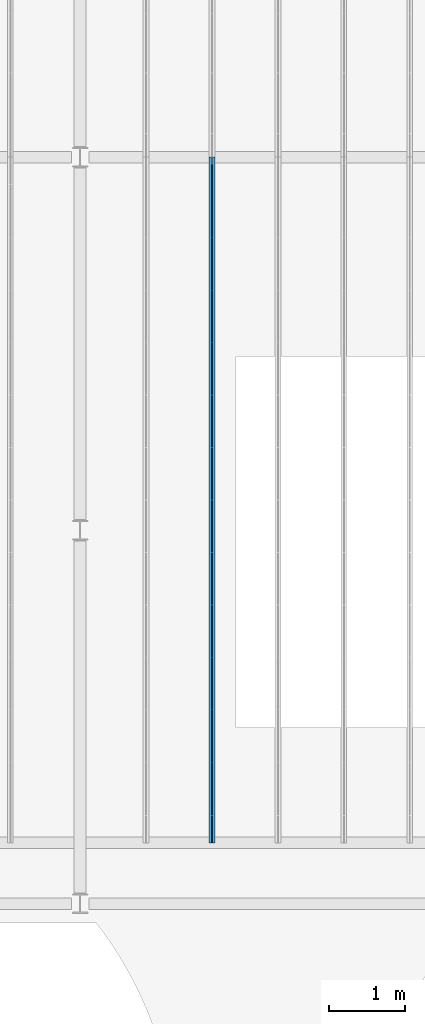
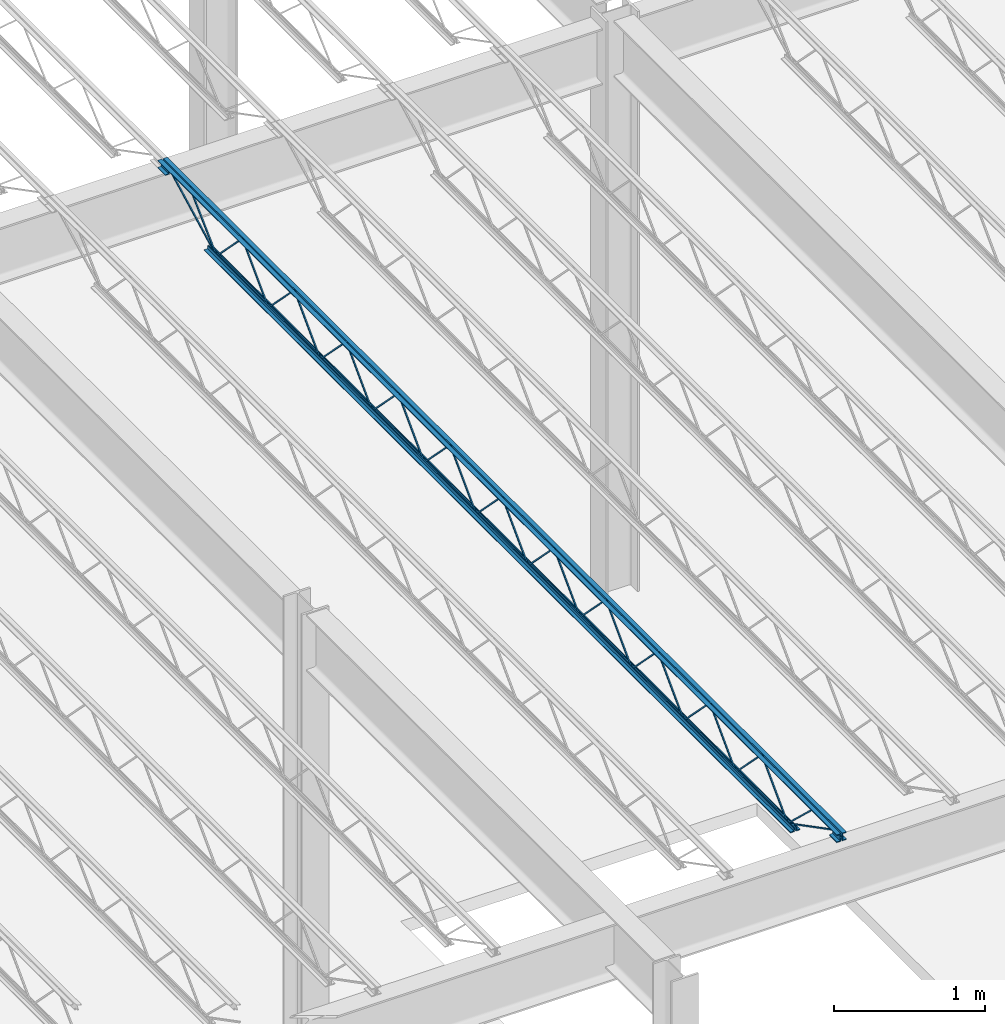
# One storey, part 53 of 119: 1 beam.
"""IFC2X3 building model written with IfcOpenShell, lengths in metres."""

import ifcopenshell
import ifcopenshell.guid

model = None  # the IFC model being written
_history = None  # IfcOwnerHistory: only IFC2X3 demands one
_inside = {}  # id of a spatial element -> (the spatial element, [elements in it])
_under = {}  # id of a project, library or spatial element -> (it, [spatial elements below it])
_declared = {}  # id of a project -> (the project, [libraries it declares])
_typed = {}  # id of a type object -> (the type object, [elements of that type])
_made_of = {}  # id of a material, layer set ... -> (it, [elements and type objects made of it])


def new_model(schema):
    """Start an empty IFC model of exactly this schema.

    Asked for "IFC4X3", IfcOpenShell would pick the latest addendum, in which some entities
    have other attributes; the version numbers below select the first issue.
    IFC2X3 requires an IfcOwnerHistory on every rooted entity: one is made here for all.
    """
    global model, _history
    if schema == "IFC4X3":
        model = ifcopenshell.file(schema_version=(4, 3, 0, 0))
    else:
        model = ifcopenshell.file(schema=schema)
    _inside.clear()
    _under.clear()
    _declared.clear()
    _typed.clear()
    _made_of.clear()
    _history = None
    if model.schema == "IFC2X3":
        org = make("IfcOrganization", Name="unknown")
        user = make(
            "IfcPersonAndOrganization",
            ThePerson=make("IfcPerson", FamilyName="unknown"),
            TheOrganization=org,
        )
        app = make(
            "IfcApplication",
            ApplicationDeveloper=org,
            Version="unknown",
            ApplicationFullName="unknown",
            ApplicationIdentifier="unknown",
        )
        _history = make(
            "IfcOwnerHistory",
            OwningUser=user,
            OwningApplication=app,
            ChangeAction="ADDED",
            CreationDate=0,
        )
    return model


def make(cls, **values):
    """One entity of the class cls with the attributes given. An attribute that is None is left unset."""
    return model.create_entity(
        cls, **{name: value for name, value in values.items() if value is not None}
    )


def entity(cls, *values):
    """Any entity or typed value of the class cls, its attributes in the order of the schema. None: left unset."""
    e = model.create_entity(cls)
    for i, value in enumerate(values):
        if value is not None:
            e[i] = value
    return e


def rooted(cls, **values):
    """An entity with a GlobalId (a new one), such as an element, a storey or a relation."""
    return make(cls, GlobalId=ifcopenshell.guid.new(), OwnerHistory=_history, **values)


def si_unit(unit_type, name, prefix=None):
    """IfcSIUnit, for example si_unit("LENGTHUNIT", "METRE", prefix="MILLI")."""
    return make("IfcSIUnit", UnitType=unit_type, Prefix=prefix, Name=name)


def converted_unit(unit_type, name, factor, base, dimensions=None, offset=None):
    """IfcConversionBasedUnit, such as the inch: factor (a typed value) times the base unit."""
    return make(
        "IfcConversionBasedUnit"
        if offset is None
        else "IfcConversionBasedUnitWithOffset",
        ConversionOffset=offset,
        Dimensions=None
        if dimensions is None
        else entity("IfcDimensionalExponents", *dimensions),
        UnitType=unit_type,
        Name=name,
        ConversionFactor=make(
            "IfcMeasureWithUnit", ValueComponent=factor, UnitComponent=base
        ),
    )


def assignment(units):
    """IfcUnitAssignment: the units of a project."""
    return None if units is None else make("IfcUnitAssignment", Units=units)


def point(xyz):
    """IfcCartesianPoint."""
    return None if xyz is None else make("IfcCartesianPoint", Coordinates=xyz)


def direction(xyz):
    """IfcDirection."""
    return None if xyz is None else make("IfcDirection", DirectionRatios=xyz)


def frame(location, z_axis=None, x_axis=None):
    """IfcAxis2Placement3D, a coordinate frame: its origin and axes. An axis left out is left unset."""
    return make(
        "IfcAxis2Placement3D",
        Location=point(location),
        Axis=direction(z_axis),
        RefDirection=direction(x_axis),
    )


def origin():
    """The frame at (0, 0, 0) with its axes left unset."""
    return frame((0.0, 0.0, 0.0))


def place(relative_to, where):
    """IfcLocalPlacement: puts the frame where relative to a parent placement (None: the world)."""
    return make(
        "IfcLocalPlacement", PlacementRelTo=relative_to, RelativePlacement=where
    )


def context(
    kind, dimensions, precision=None, world=None, true_north=None, identifier=None
):
    """IfcGeometricRepresentationContext, for example the 3D "Model" context."""
    return make(
        "IfcGeometricRepresentationContext",
        ContextIdentifier=identifier,
        ContextType=kind,
        CoordinateSpaceDimension=dimensions,
        Precision=precision,
        WorldCoordinateSystem=world,
        TrueNorth=true_north,
    )


def project(units=None, contexts=None):
    """IfcProject with its units and contexts."""
    return rooted(
        "IfcProject",
        Name="project",
        RepresentationContexts=contexts,
        UnitsInContext=assignment(units),
    )


def spatial(cls, under=None, at=None, **own):
    """A site, building, storey or space (cls), placed at a placement, below another one or the project."""
    s = rooted(cls, ObjectPlacement=at, **own)
    if under is not None:
        _under.setdefault(under.id(), (under, []))[1].append(s)
    return s


def faces_of(points, faces, orient=None, outer=None):
    """IfcFace entities. A face is a list of loops; a loop is a list of indices into points, from 0.

    orient and outer hold one flag for each loop. By default every Orientation is true, the
    first loop of a face is its IfcFaceOuterBound and the others are IfcFaceBound.
    """
    made = []
    for i, loops in enumerate(faces):
        bounds = []
        for j, loop in enumerate(loops):
            is_outer = j == 0 if outer is None else outer[i][j]
            bounds.append(
                make(
                    "IfcFaceOuterBound" if is_outer else "IfcFaceBound",
                    Bound=make("IfcPolyLoop", Polygon=[points[k] for k in loop]),
                    Orientation=True if orient is None else orient[i][j],
                )
            )
        made.append(make("IfcFace", Bounds=bounds))
    return made


def face_set(faces, orient=None, outer=None):
    """The faces of one IfcConnectedFaceSet. surface_model builds it on its shared points."""
    return ("IfcConnectedFaceSet", faces, orient, outer)


def surface_model(cls, points, shells):
    """IfcFaceBasedSurfaceModel or IfcShellBasedSurfaceModel (cls): surfaces that need not close."""
    shared = [point(p) for p in points]
    made = [make(c, CfsFaces=faces_of(shared, fs, o, b)) for c, fs, o, b in shells]
    if cls == "IfcFaceBasedSurfaceModel":
        return make(cls, FbsmFaces=made)
    return make(cls, SbsmBoundary=made)


def shape(context_of_items, identifier, shape_type, items):
    """IfcShapeRepresentation: the items that make up one representation, for example the "Body"."""
    return make(
        "IfcShapeRepresentation",
        ContextOfItems=context_of_items,
        RepresentationIdentifier=identifier,
        RepresentationType=shape_type,
        Items=items,
    )


def made_of(thing, what):
    """Note that an element or type object is made of a material, layer set ...; save() writes the relation."""
    if what is not None:
        _made_of.setdefault(what.id(), (what, []))[1].append(thing)
    return thing


def element(
    cls,
    number,
    at=None,
    inside=None,
    cuts=None,
    type_object=None,
    material=None,
    context=None,
    identifier="Body",
    shape_type=None,
    held_by="IfcProductDefinitionShape",
    body=None,
    shapes=None,
    **own,
):
    """One element of the class cls, such as IfcWall. Its Tag is "e" and its number.

    at: its placement. inside: the storey or other place that contains it. cuts: it is an
    opening in that element (IfcRelVoidsElement). A single representation is given by context,
    identifier, shape_type and body (its items); several are given by shapes. held_by: the class
    of the entity that holds the representations. save() writes the other relations.
    """
    e = rooted(cls, Tag="e%d" % number, ObjectPlacement=at, **own)
    if body is not None:
        shapes = [shape(context, identifier, shape_type, body)]
    if shapes is not None:
        e.Representation = make(held_by, Representations=shapes)
    if inside is not None:
        _inside.setdefault(inside.id(), (inside, []))[1].append(e)
    if cuts is not None:
        rooted(
            "IfcRelVoidsElement", RelatingBuildingElement=cuts, RelatedOpeningElement=e
        )
    if type_object is not None:
        _typed.setdefault(type_object.id(), (type_object, []))[1].append(e)
    return made_of(e, material)


def aggregate(whole, parts):
    """IfcRelAggregates: a whole, such as a stair, and the parts it consists of."""
    return rooted("IfcRelAggregates", RelatingObject=whole, RelatedObjects=parts)


def save(model, path):
    """Write the relations noted so far, then the file.

    IfcRelAggregates (storeys below a building ...), IfcRelContainedInSpatialStructure (elements
    in a storey), IfcRelDefinesByType, IfcRelAssociatesMaterial and IfcRelDeclares: one each for
    every whole, place, type object, material and project.
    """
    for whole, parts in _under.values():
        aggregate(whole, parts)
    for where, things in _inside.values():
        rooted(
            "IfcRelContainedInSpatialStructure",
            RelatedElements=things,
            RelatingStructure=where,
        )
    for kind, things in _typed.values():
        rooted("IfcRelDefinesByType", RelatedObjects=things, RelatingType=kind)
    for what, things in _made_of.values():
        rooted("IfcRelAssociatesMaterial", RelatedObjects=things, RelatingMaterial=what)
    for by, libraries in _declared.values():
        rooted("IfcRelDeclares", RelatingContext=by, RelatedDefinitions=libraries)
    model.write(path)


model = new_model("IFC2X3")

# Units and contexts
model_context = context("Model", 3, precision=1e-09, world=origin())
plan_context = context("Plan", 3, precision=1e-09, world=origin())
ifc_project = project(units=[si_unit("LENGTHUNIT", "METRE"), si_unit("AREAUNIT", "SQUARE_METRE"), si_unit("VOLUMEUNIT", "CUBIC_METRE"), converted_unit("PLANEANGLEUNIT", "DEGREE", entity("IfcRatioMeasure", 0.01745329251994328), si_unit("PLANEANGLEUNIT", "RADIAN"), dimensions=[0, 0, 0, 0, 0, 0, 0]), si_unit("TIMEUNIT", "SECOND")], contexts=[model_context, plan_context])

# Site, building, storey
site_placement = place(None, origin())
site = spatial("IfcSite", under=ifc_project, at=site_placement, Name="Default", CompositionType="ELEMENT")
building_placement = place(site_placement, origin())
building = spatial("IfcBuilding", under=site, at=building_placement, CompositionType="ELEMENT")
storey_placement = place(building_placement, frame((0.0, 0.0, 4.570000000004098)))
storey = spatial("IfcBuildingStorey", under=building, at=storey_placement, Name="Second Floor", CompositionType="ELEMENT", Elevation=4.570000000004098)

# Beam
beam_placement = place(storey_placement, frame((-18.37007499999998, 35.80499999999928, 4.323999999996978)))
element("IfcBeam", 1, at=beam_placement, inside=storey, Name="M_K-Series Bar Joist-Rod Web:14K1:14K1", ObjectType="M_K-Series Bar Joist-Rod Web:14K1", context=model_context, shape_type="SurfaceModel", body=[
    surface_model("IfcFaceBasedSurfaceModel", [(0.04150000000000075, 6.890090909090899, 0.01110000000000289), (0.03200000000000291, 6.890090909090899, 0.01110000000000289), (0.03200000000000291, 6.890090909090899, 0.001600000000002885), (0.04150000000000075, 6.890090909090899, 0.001600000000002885), (0.03200000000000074, 6.891272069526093, 0.01110000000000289), (0.04150000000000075, 6.891272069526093, 0.01110000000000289), (0.03200000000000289, 6.8952597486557, 0.001600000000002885), (0.03200000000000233, 7.232137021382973, 0.3449000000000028), (0.03200000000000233, 7.234499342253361, 0.3449000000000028), (0.03200000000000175, 7.57137661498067, 0.001600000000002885), (0.03200000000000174, 7.576545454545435, 0.001600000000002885), (0.03200000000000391, 7.576545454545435, 0.01110000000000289), (0.03200000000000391, 7.575364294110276, 0.01110000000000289), (0.03200000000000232, 7.238487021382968, 0.3544000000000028), (0.03200000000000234, 7.228149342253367, 0.3544000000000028), (0.0415000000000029, 6.8952597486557, 0.001600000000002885), (0.04150000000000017, 7.232137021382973, 0.3449000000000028), (0.04150000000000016, 7.234499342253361, 0.3449000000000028), (0.04149999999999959, 7.57137661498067, 0.001600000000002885), (0.04149999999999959, 7.576545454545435, 0.001600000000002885), (0.04149999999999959, 7.576545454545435, 0.01110000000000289), (0.04149999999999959, 7.575364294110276, 0.01110000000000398), (0.04150000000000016, 7.238487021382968, 0.3544000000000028), (0.04150000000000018, 7.228149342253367, 0.3544000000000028), (0.04149999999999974, 6.203636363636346, 0.01110000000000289), (0.0320000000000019, 6.203636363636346, 0.01110000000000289), (0.0320000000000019, 6.203636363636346, 0.001600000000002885), (0.04149999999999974, 6.203636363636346, 0.001600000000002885), (0.03199999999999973, 6.20481752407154, 0.01110000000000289), (0.04149999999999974, 6.20481752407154, 0.01110000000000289), (0.0320000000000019, 6.208805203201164, 0.001600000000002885), (0.03200000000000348, 6.545682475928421, 0.3449000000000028), (0.03200000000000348, 6.548044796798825, 0.3449000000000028), (0.03200000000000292, 6.884922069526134, 0.001600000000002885), (0.03200000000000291, 6.88890974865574, 0.01110000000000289), (0.03200000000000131, 6.552032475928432, 0.3544000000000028), (0.03200000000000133, 6.541694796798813, 0.3544000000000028), (0.0415000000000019, 6.208805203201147, 0.001600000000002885), (0.04149999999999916, 6.545682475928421, 0.3449000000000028), (0.04149999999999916, 6.548044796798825, 0.3449000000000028), (0.04149999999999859, 6.884922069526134, 0.001600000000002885), (0.04149999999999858, 6.890090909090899, 0.001600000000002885), (0.04150000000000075, 6.88890974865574, 0.01110000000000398), (0.04150000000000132, 6.552032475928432, 0.3544000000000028), (0.04150000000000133, 6.541694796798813, 0.3544000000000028), (0.0415000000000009, 5.51718181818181, 0.01110000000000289), (0.03200000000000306, 5.51718181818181, 0.01110000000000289), (0.03200000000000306, 5.51718181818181, 0.001600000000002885), (0.0415000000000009, 5.51718181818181, 0.001600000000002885), (0.03200000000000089, 5.518362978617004, 0.01110000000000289), (0.0415000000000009, 5.518362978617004, 0.01110000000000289), (0.03200000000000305, 5.52235065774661, 0.001600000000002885), (0.03200000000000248, 5.859227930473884, 0.3449000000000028), (0.03200000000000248, 5.861590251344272, 0.3449000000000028), (0.03200000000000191, 6.198467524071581, 0.001600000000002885), (0.03200000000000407, 6.203636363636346, 0.01110000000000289), (0.03200000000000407, 6.202455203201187, 0.01110000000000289), (0.03200000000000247, 5.865577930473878, 0.3544000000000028), (0.03200000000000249, 5.855240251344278, 0.3544000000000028), (0.04150000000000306, 5.52235065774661, 0.001600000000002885), (0.04150000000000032, 5.859227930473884, 0.3449000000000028), (0.04150000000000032, 5.861590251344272, 0.3449000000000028), (0.04149999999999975, 6.198467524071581, 0.001600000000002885), (0.04149999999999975, 6.202455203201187, 0.01110000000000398), (0.04150000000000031, 5.865577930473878, 0.3544000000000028), (0.04150000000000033, 5.855240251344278, 0.3544000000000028), (0.04149999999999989, 4.830727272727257, 0.01110000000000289), (0.03200000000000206, 4.830727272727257, 0.01110000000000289), (0.03200000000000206, 4.830727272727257, 0.001600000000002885), (0.04149999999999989, 4.830727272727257, 0.001600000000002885), (0.03199999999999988, 4.831908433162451, 0.01110000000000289), (0.04149999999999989, 4.831908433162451, 0.01110000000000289), (0.03200000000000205, 4.835896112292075, 0.001600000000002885), (0.03200000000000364, 5.172773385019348, 0.3449000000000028), (0.03200000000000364, 5.175135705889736, 0.3449000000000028), (0.03200000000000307, 5.512012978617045, 0.001600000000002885), (0.03200000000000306, 5.516000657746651, 0.01110000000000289), (0.03200000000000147, 5.179123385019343, 0.3544000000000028), (0.03200000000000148, 5.168785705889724, 0.3544000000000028), (0.04150000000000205, 4.835896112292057, 0.001600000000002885), (0.04149999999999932, 5.172773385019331, 0.3449000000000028), (0.04149999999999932, 5.175135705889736, 0.3449000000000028), (0.04149999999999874, 5.512012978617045, 0.001600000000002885), (0.04149999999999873, 5.51718181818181, 0.001600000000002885), (0.0415000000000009, 5.516000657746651, 0.01110000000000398), (0.04150000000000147, 5.179123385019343, 0.3544000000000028), (0.04150000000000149, 5.168785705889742, 0.3544000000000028), (0.04150000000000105, 4.144272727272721, 0.01110000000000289), (0.03200000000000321, 4.144272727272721, 0.01110000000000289), (0.03200000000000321, 4.144272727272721, 0.001600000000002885), (0.04150000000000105, 4.144272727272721, 0.001600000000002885), (0.03200000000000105, 4.145453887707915, 0.01110000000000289), (0.04150000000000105, 4.145453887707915, 0.01110000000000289), (0.03200000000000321, 4.149441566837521, 0.001600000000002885), (0.03200000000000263, 4.486318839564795, 0.3449000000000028), (0.03200000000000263, 4.4886811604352, 0.3449000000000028), (0.03200000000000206, 4.825558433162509, 0.001600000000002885), (0.03200000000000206, 4.830727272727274, 0.001600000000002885), (0.03200000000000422, 4.830727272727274, 0.01110000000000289), (0.03200000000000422, 4.829546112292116, 0.01110000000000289), (0.03200000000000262, 4.492668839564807, 0.3544000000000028), (0.03200000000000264, 4.482331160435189, 0.3544000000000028), (0.04150000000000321, 4.149441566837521, 0.001600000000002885), (0.04150000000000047, 4.486318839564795, 0.3449000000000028), (0.04150000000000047, 4.4886811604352, 0.3449000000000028), (0.0414999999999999, 4.825558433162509, 0.001600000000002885), (0.04149999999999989, 4.830727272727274, 0.001600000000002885), (0.04149999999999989, 4.830727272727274, 0.01110000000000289), (0.0414999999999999, 4.829546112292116, 0.01110000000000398), (0.04150000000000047, 4.492668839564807, 0.3544000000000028), (0.04150000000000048, 4.482331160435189, 0.3544000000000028), (0.04150000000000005, 3.457818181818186, 0.01110000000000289), (0.03200000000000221, 3.457818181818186, 0.01110000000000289), (0.03200000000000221, 3.457818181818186, 0.001600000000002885), (0.04150000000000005, 3.457818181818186, 0.001600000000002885), (0.03200000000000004, 3.458999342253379, 0.01110000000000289), (0.04150000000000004, 3.458999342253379, 0.01110000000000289), (0.03200000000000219, 3.462987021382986, 0.001600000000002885), (0.03200000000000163, 3.79986429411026, 0.3449000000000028), (0.03200000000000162, 3.802226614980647, 0.3449000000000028), (0.03200000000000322, 4.139103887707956, 0.001600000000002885), (0.03200000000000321, 4.143091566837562, 0.01110000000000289), (0.03200000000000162, 3.806214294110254, 0.3544000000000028), (0.03200000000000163, 3.795876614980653, 0.3544000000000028), (0.04150000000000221, 3.462987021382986, 0.001600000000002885), (0.04149999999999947, 3.79986429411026, 0.3449000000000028), (0.04149999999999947, 3.802226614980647, 0.3449000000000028), (0.0414999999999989, 4.139103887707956, 0.001600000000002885), (0.04149999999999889, 4.144272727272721, 0.001600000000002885), (0.04150000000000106, 4.143091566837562, 0.01110000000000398), (0.04149999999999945, 3.806214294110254, 0.3544000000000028), (0.04149999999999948, 3.795876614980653, 0.3544000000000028), (0.04150000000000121, 2.771363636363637, 0.01110000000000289), (0.03200000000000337, 2.771363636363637, 0.01110000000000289), (0.03200000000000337, 2.771363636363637, 0.001600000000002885), (0.04150000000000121, 2.771363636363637, 0.001600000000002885), (0.0320000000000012, 2.772544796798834, 0.01110000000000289), (0.0415000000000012, 2.772544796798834, 0.01110000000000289), (0.03200000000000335, 2.776532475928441, 0.001600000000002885), (0.03200000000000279, 3.113409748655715, 0.3449000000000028), (0.03200000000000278, 3.115772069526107, 0.3449000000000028), (0.03200000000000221, 3.45264934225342, 0.001600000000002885), (0.03200000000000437, 3.457818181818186, 0.01110000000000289), (0.03200000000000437, 3.456637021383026, 0.01110000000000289), (0.03200000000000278, 3.119759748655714, 0.3544000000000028), (0.03200000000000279, 3.109422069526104, 0.3544000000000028), (0.04150000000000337, 2.776532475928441, 0.001600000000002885), (0.04150000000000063, 3.113409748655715, 0.3449000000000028), (0.04150000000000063, 3.115772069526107, 0.3449000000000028), (0.04150000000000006, 3.45264934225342, 0.001600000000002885), (0.04150000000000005, 3.456637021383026, 0.01110000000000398), (0.04150000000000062, 3.119759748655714, 0.3544000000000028), (0.04150000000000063, 3.109422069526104, 0.3544000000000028), (0.0415000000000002, 2.084909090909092, 0.01110000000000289), (0.03200000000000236, 2.084909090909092, 0.01110000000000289), (0.03200000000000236, 2.084909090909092, 0.001600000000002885), (0.0415000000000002, 2.084909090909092, 0.001600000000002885), (0.0320000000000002, 2.08609025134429, 0.01110000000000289), (0.0415000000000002, 2.08609025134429, 0.01110000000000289), (0.03200000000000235, 2.090077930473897, 0.001600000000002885), (0.03200000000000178, 2.426955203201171, 0.3449000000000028), (0.03200000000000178, 2.429317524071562, 0.3449000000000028), (0.03200000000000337, 2.766194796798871, 0.001600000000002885), (0.03200000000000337, 2.770182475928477, 0.01110000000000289), (0.03200000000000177, 2.433305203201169, 0.3544000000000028), (0.03200000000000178, 2.422967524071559, 0.3544000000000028), (0.04150000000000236, 2.090077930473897, 0.001600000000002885), (0.04149999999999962, 2.426955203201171, 0.3449000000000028), (0.04149999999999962, 2.429317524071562, 0.3449000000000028), (0.04149999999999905, 2.766194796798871, 0.001600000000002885), (0.04149999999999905, 2.771363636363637, 0.001600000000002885), (0.04150000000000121, 2.770182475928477, 0.01110000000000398), (0.04149999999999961, 2.433305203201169, 0.3544000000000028), (0.04149999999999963, 2.422967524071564, 0.3544000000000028), (0.04150000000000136, 1.398454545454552, 0.01110000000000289), (0.03200000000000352, 1.398454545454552, 0.01110000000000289), (0.03200000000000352, 1.398454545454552, 0.001600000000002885), (0.04150000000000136, 1.398454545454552, 0.001600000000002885), (0.03200000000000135, 1.39963570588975, 0.01110000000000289), (0.04150000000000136, 1.39963570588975, 0.01110000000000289), (0.03200000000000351, 1.403623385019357, 0.001600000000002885), (0.03200000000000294, 1.740500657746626, 0.3449000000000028), (0.03200000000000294, 1.742862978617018, 0.3449000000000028), (0.03200000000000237, 2.07974025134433, 0.001600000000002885), (0.03200000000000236, 2.084909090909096, 0.001600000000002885), (0.03200000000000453, 2.084909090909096, 0.01110000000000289), (0.03200000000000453, 2.083727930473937, 0.01110000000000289), (0.03200000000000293, 1.746850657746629, 0.3544000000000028), (0.03200000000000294, 1.736512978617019, 0.3544000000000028), (0.04150000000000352, 1.403623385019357, 0.001600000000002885), (0.04150000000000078, 1.74050065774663, 0.3449000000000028), (0.04150000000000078, 1.742862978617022, 0.3449000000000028), (0.04150000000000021, 2.07974025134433, 0.001600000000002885), (0.0415000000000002, 2.084909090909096, 0.001600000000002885), (0.0415000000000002, 2.084909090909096, 0.01110000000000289), (0.0415000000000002, 2.083727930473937, 0.01110000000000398), (0.04150000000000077, 1.746850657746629, 0.3544000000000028), (0.04150000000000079, 1.736512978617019, 0.3544000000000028), (0.04150000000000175, 7.576545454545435, 0.01109999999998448), (0.03200000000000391, 7.576545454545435, 0.01109999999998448), (0.03200000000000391, 7.576545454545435, 0.001599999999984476), (0.04150000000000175, 7.576545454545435, 0.001599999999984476), (0.03200000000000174, 7.577726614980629, 0.01109999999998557), (0.04150000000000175, 7.577726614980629, 0.01109999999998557), (0.03200000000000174, 7.581714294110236, 0.001599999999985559), (0.03200000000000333, 7.91859156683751, 0.3448999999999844), (0.03200000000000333, 7.920953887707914, 0.3448999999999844), (0.03200000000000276, 8.257831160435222, 0.001599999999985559), (0.03200000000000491, 8.26299999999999, 0.001599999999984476), (0.03200000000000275, 8.26299999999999, 0.01109999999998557), (0.03200000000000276, 8.26181883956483, 0.01109999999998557), (0.03200000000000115, 7.924941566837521, 0.3543999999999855), (0.03200000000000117, 7.914603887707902, 0.3543999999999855), (0.04150000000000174, 7.581714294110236, 0.001599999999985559), (0.04150000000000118, 7.91859156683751, 0.3448999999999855), (0.04150000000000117, 7.920953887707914, 0.3448999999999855), (0.0415000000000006, 8.257831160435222, 0.001599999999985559), (0.04150000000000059, 8.26299999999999, 0.001599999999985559), (0.04150000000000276, 8.26299999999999, 0.01109999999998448), (0.04150000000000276, 8.26181883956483, 0.01109999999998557), (0.04150000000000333, 7.924941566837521, 0.3543999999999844), (0.04150000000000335, 7.914603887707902, 0.3543999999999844), (0.04150000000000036, 0.7120000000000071, 0.01110000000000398), (0.03200000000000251, 0.7120000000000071, 0.01110000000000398), (0.03200000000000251, 0.7120000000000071, 0.001600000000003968), (0.04150000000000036, 0.7120000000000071, 0.001600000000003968), (0.03200000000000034, 0.7131811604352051, 0.01110000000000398), (0.04150000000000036, 0.7131811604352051, 0.01110000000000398), (0.03200000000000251, 0.7171688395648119, 0.001600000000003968), (0.03200000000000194, 1.054046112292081, 0.3449000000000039), (0.03200000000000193, 1.056408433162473, 0.3449000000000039), (0.03200000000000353, 1.393285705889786, 0.001600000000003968), (0.03200000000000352, 1.398454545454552, 0.001600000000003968), (0.03200000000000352, 1.398454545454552, 0.01110000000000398), (0.03200000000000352, 1.397273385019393, 0.01110000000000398), (0.03200000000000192, 1.060396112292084, 0.3544000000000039), (0.03200000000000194, 1.050058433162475, 0.3544000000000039), (0.04150000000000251, 0.7171688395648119, 0.001600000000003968), (0.04149999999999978, 1.054046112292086, 0.3449000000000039), (0.04149999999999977, 1.056408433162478, 0.3449000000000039), (0.0414999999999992, 1.393285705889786, 0.001600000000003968), (0.0414999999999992, 1.398454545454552, 0.001600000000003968), (0.04150000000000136, 1.398454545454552, 0.01110000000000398), (0.04150000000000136, 1.397273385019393, 0.01110000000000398), (0.04149999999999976, 1.060396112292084, 0.3544000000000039), (0.04149999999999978, 1.050058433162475, 0.3544000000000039), (0.03199999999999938, 8.975, 0.3559999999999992), (0.0, 8.975, 0.3559999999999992), (0.0, 8.975, 0.3494999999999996), (0.02549999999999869, 8.975, 0.3494999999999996), (0.02549999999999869, 8.975, 0.3239999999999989), (0.03199999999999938, 8.975, 0.3239999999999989), (0.04149999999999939, 8.975, 0.3559999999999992), (0.04149999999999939, 8.975, 0.3239999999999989), (0.04800000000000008, 8.975, 0.3239999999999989), (0.04800000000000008, 8.975, 0.3494999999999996), (0.07349999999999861, 8.975, 0.3494999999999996), (0.07349999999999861, 8.975, 0.3559999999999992), (0.03200000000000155, 0.0, 0.3559999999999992), (0.0, 0.0, 0.3559999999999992), (0.0, 0.0, 0.3494999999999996), (0.02550000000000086, 0.0, 0.3494999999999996), (0.02550000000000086, 0.0, 0.3239999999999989), (0.03200000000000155, 0.0, 0.3239999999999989), (0.04150000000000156, 0.0, 0.3559999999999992), (0.04150000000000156, 0.0, 0.3239999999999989), (0.04800000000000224, 0.0, 0.3239999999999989), (0.04800000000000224, 0.0, 0.3494999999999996), (0.07350000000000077, 0.0, 0.3494999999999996), (0.07350000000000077, 0.0, 0.3559999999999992), (0.04150000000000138, 0.09999999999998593, 0.2924999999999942), (0.0735000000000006, 0.09999999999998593, 0.2924999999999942), (0.0735000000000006, 0.09999999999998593, 0.2989999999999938), (0.04800000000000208, 0.09999999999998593, 0.2989999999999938), (0.04800000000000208, 0.09999999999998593, 0.3239999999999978), (0.04150000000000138, 0.09999999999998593, 0.3239999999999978), (0.0, 0.09999999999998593, 0.2924999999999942), (0.03200000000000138, 0.09999999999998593, 0.2924999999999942), (0.03200000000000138, 0.09999999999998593, 0.3239999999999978), (0.02550000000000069, 0.09999999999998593, 0.3239999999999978), (0.02550000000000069, 0.09999999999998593, 0.2989999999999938), (0.0, 0.09999999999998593, 0.2989999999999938), (0.04150000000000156, 0.0, 0.2924999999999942), (0.07350000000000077, 0.0, 0.2924999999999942), (0.07350000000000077, 0.0, 0.2989999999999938), (0.04800000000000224, 0.0, 0.2989999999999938), (0.04800000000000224, 0.0, 0.3239999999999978), (0.04150000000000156, 0.0, 0.3239999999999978), (0.0, 0.0, 0.2924999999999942), (0.03200000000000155, 0.0, 0.2924999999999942), (0.03200000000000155, 0.0, 0.3239999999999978), (0.02550000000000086, 0.0, 0.3239999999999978), (0.02550000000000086, 0.0, 0.2989999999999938), (0.0, 0.0, 0.2989999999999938), (0.03199999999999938, 8.975, 0.2924999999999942), (0.03199999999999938, 8.975, 0.3239999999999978), (0.02550000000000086, 8.975, 0.3239999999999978), (0.02550000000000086, 8.975, 0.2989999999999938), (0.0, 8.975, 0.2989999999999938), (0.0, 8.975, 0.2924999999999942), (0.04149999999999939, 8.975, 0.2924999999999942), (0.07350000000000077, 8.975, 0.2924999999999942), (0.07350000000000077, 8.975, 0.2989999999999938), (0.04800000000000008, 8.975, 0.2989999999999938), (0.04800000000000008, 8.975, 0.3239999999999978), (0.04149999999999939, 8.975, 0.3239999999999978), (0.03199999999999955, 8.875000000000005, 0.2924999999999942), (0.03199999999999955, 8.875000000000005, 0.3239999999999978), (0.02550000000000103, 8.875000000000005, 0.3239999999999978), (0.02550000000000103, 8.875000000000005, 0.2989999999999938), (0.0, 8.875000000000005, 0.2989999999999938), (0.0, 8.875000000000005, 0.2924999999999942), (0.04149999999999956, 8.875000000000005, 0.2924999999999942), (0.07350000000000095, 8.875000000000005, 0.2924999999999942), (0.07350000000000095, 8.875000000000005, 0.2989999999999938), (0.04800000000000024, 8.875000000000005, 0.2989999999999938), (0.04800000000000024, 8.875000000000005, 0.3239999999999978), (0.04149999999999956, 8.875000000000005, 0.3239999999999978), (0.03200000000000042, 8.363000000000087, 0.0), (0.03200000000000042, 8.363000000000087, 0.03199999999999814), (0.02549999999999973, 8.363000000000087, 0.03199999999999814), (0.02549999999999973, 8.363000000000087, 0.006499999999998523), (0.0, 8.363000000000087, 0.006499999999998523), (0.0, 8.363000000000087, 0.0), (0.04150000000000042, 8.363000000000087, 0.0), (0.07349999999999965, 8.363000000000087, 0.0), (0.07349999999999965, 8.363000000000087, 0.006499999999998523), (0.04800000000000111, 8.363000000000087, 0.006499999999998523), (0.04800000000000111, 8.363000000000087, 0.03199999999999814), (0.04150000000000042, 8.363000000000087, 0.03199999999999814), (0.03200000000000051, 0.6120000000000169, 0.0), (0.03200000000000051, 0.6120000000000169, 0.03199999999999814), (0.02549999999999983, 0.6120000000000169, 0.03199999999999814), (0.02549999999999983, 0.6120000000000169, 0.006499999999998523), (0.0, 0.6120000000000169, 0.006499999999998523), (0.0, 0.6120000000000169, 0.0), (0.04150000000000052, 0.6120000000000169, 0.0), (0.07349999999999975, 0.6120000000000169, 0.0), (0.07349999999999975, 0.6120000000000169, 0.006499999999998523), (0.04800000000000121, 0.6120000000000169, 0.006499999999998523), (0.04800000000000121, 0.6120000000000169, 0.03199999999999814), (0.04150000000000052, 0.6120000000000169, 0.03199999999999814), (0.04150000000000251, 0.7141882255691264, 0.01056594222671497), (0.03200000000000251, 0.7141882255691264, 0.01056594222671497), (0.03200000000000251, 0.7098117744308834, 0.002134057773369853), (0.04150000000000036, 0.7098117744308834, 0.002134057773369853), (0.04150000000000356, 0.1011592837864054, 0.3287499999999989), (0.04150000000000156, 0.0, 0.3287499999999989), (0.04150000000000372, 0.0, 0.3192499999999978), (0.04150000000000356, 0.09884071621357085, 0.3192499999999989), (0.03200000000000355, 0.09884071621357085, 0.3192499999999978), (0.03200000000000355, 0.1011592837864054, 0.3287499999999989), (0.03200000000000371, 0.0, 0.3287499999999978), (0.03200000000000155, 0.0, 0.3192499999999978), (0.04150000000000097, 0.3488155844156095, 0.3417000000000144), (0.03200000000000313, 0.3488155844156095, 0.3417000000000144), (0.03200000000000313, 0.3488155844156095, 0.3322000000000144), (0.04150000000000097, 0.3488155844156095, 0.3322000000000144), (0.03200000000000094, 0.3634023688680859, 0.3417000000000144), (0.04150000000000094, 0.3634023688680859, 0.3417000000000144), (0.03200000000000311, 0.3596287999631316, 0.3322000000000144), (0.03200000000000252, 0.7087406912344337, 0.002894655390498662), (0.03200000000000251, 0.7152593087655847, 0.009805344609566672), (0.04150000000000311, 0.3596287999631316, 0.3322000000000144), (0.04150000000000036, 0.7087406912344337, 0.002894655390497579), (0.04150000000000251, 0.7152593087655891, 0.009805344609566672), (0.04149999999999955, 8.877188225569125, 0.3197840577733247), (0.04149999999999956, 8.872811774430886, 0.3282159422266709), (0.03200000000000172, 8.872811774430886, 0.3282159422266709), (0.03200000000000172, 8.877188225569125, 0.3197840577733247), (0.04150000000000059, 8.26518822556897, 0.002134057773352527), (0.0415000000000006, 8.260811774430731, 0.01056594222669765), (0.03200000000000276, 8.260811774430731, 0.01056594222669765), (0.03200000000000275, 8.26518822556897, 0.002134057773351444), (0.04150000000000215, 8.624030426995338, 0.346222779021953), (0.04149999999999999, 8.617452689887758, 0.3530772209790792), (0.03199999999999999, 8.617452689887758, 0.3530772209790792), (0.03200000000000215, 8.624030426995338, 0.346222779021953), (0.04150000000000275, 8.26628886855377, 0.002922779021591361), (0.0415000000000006, 8.25971113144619, 0.009777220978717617), (0.03200000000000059, 8.25971113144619, 0.009777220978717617), (0.03200000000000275, 8.26628886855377, 0.002922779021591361)], [face_set([[[0, 1, 2, 3]], [[1, 4, 5, 0]], [[2, 6, 7, 8, 9, 10, 11, 12, 13, 14, 4, 1]], [[3, 2, 6, 15]], [[0, 3, 15, 16, 17, 18, 19, 20, 21, 22, 23, 5]], [[4, 5, 23, 14]], [[15, 16, 7, 6]], [[14, 13, 22, 23]], [[16, 7, 8, 17]], [[13, 12, 21, 22]], [[17, 8, 9, 18]], [[20, 11, 10, 19]], [[12, 11, 20, 21]], [[18, 9, 10, 19]]]), face_set([[[24, 25, 26, 27]], [[25, 28, 29, 24]], [[26, 30, 31, 32, 33, 2, 1, 34, 35, 36, 28, 25]], [[27, 26, 30, 37]], [[24, 27, 37, 38, 39, 40, 41, 0, 42, 43, 44, 29]], [[28, 29, 44, 36]], [[37, 38, 31, 30]], [[36, 35, 43, 44]], [[38, 31, 32, 39]], [[35, 34, 42, 43]], [[39, 32, 33, 40]], [[0, 1, 2, 41]], [[34, 1, 0, 42]], [[40, 33, 2, 41]]]), face_set([[[45, 46, 47, 48]], [[46, 49, 50, 45]], [[47, 51, 52, 53, 54, 26, 55, 56, 57, 58, 49, 46]], [[48, 47, 51, 59]], [[45, 48, 59, 60, 61, 62, 27, 24, 63, 64, 65, 50]], [[49, 50, 65, 58]], [[59, 60, 52, 51]], [[58, 57, 64, 65]], [[60, 52, 53, 61]], [[57, 56, 63, 64]], [[61, 53, 54, 62]], [[24, 55, 26, 27]], [[56, 55, 24, 63]], [[62, 54, 26, 27]]]), face_set([[[66, 67, 68, 69]], [[67, 70, 71, 66]], [[68, 72, 73, 74, 75, 47, 46, 76, 77, 78, 70, 67]], [[69, 68, 72, 79]], [[66, 69, 79, 80, 81, 82, 83, 45, 84, 85, 86, 71]], [[70, 71, 86, 78]], [[79, 80, 73, 72]], [[78, 77, 85, 86]], [[80, 73, 74, 81]], [[77, 76, 84, 85]], [[81, 74, 75, 82]], [[45, 46, 47, 83]], [[76, 46, 45, 84]], [[82, 75, 47, 83]]]), face_set([[[87, 88, 89, 90]], [[88, 91, 92, 87]], [[89, 93, 94, 95, 96, 97, 98, 99, 100, 101, 91, 88]], [[90, 89, 93, 102]], [[87, 90, 102, 103, 104, 105, 106, 107, 108, 109, 110, 92]], [[91, 92, 110, 101]], [[102, 103, 94, 93]], [[101, 100, 109, 110]], [[103, 94, 95, 104]], [[100, 99, 108, 109]], [[104, 95, 96, 105]], [[107, 98, 97, 106]], [[99, 98, 107, 108]], [[105, 96, 97, 106]]]), face_set([[[111, 112, 113, 114]], [[112, 115, 116, 111]], [[113, 117, 118, 119, 120, 89, 88, 121, 122, 123, 115, 112]], [[114, 113, 117, 124]], [[111, 114, 124, 125, 126, 127, 128, 87, 129, 130, 131, 116]], [[115, 116, 131, 123]], [[124, 125, 118, 117]], [[123, 122, 130, 131]], [[125, 118, 119, 126]], [[122, 121, 129, 130]], [[126, 119, 120, 127]], [[87, 88, 89, 128]], [[121, 88, 87, 129]], [[127, 120, 89, 128]]]), face_set([[[132, 133, 134, 135]], [[133, 136, 137, 132]], [[134, 138, 139, 140, 141, 113, 142, 143, 144, 145, 136, 133]], [[135, 134, 138, 146]], [[132, 135, 146, 147, 148, 149, 114, 111, 150, 151, 152, 137]], [[136, 137, 152, 145]], [[146, 147, 139, 138]], [[145, 144, 151, 152]], [[147, 139, 140, 148]], [[144, 143, 150, 151]], [[148, 140, 141, 149]], [[111, 142, 113, 114]], [[143, 142, 111, 150]], [[149, 141, 113, 114]]]), face_set([[[153, 154, 155, 156]], [[154, 157, 158, 153]], [[155, 159, 160, 161, 162, 134, 133, 163, 164, 165, 157, 154]], [[156, 155, 159, 166]], [[153, 156, 166, 167, 168, 169, 170, 132, 171, 172, 173, 158]], [[157, 158, 173, 165]], [[166, 167, 160, 159]], [[165, 164, 172, 173]], [[167, 160, 161, 168]], [[164, 163, 171, 172]], [[168, 161, 162, 169]], [[132, 133, 134, 170]], [[163, 133, 132, 171]], [[169, 162, 134, 170]]]), face_set([[[174, 175, 176, 177]], [[175, 178, 179, 174]], [[176, 180, 181, 182, 183, 184, 185, 186, 187, 188, 178, 175]], [[177, 176, 180, 189]], [[174, 177, 189, 190, 191, 192, 193, 194, 195, 196, 197, 179]], [[178, 179, 197, 188]], [[189, 190, 181, 180]], [[188, 187, 196, 197]], [[190, 181, 182, 191]], [[187, 186, 195, 196]], [[191, 182, 183, 192]], [[194, 185, 184, 193]], [[186, 185, 194, 195]], [[192, 183, 184, 193]]]), face_set([[[198, 199, 200, 201]], [[199, 202, 203, 198]], [[200, 204, 205, 206, 207, 208, 209, 210, 211, 212, 202, 199]], [[201, 200, 204, 213]], [[198, 201, 213, 214, 215, 216, 217, 218, 219, 220, 221, 203]], [[202, 203, 221, 212]], [[213, 214, 205, 204]], [[212, 211, 220, 221]], [[214, 205, 206, 215]], [[211, 210, 219, 220]], [[215, 206, 207, 216]], [[218, 209, 208, 217]], [[210, 209, 218, 219]], [[216, 207, 208, 217]]]), face_set([[[222, 223, 224, 225]], [[223, 226, 227, 222]], [[224, 228, 229, 230, 231, 232, 233, 234, 235, 236, 226, 223]], [[225, 224, 228, 237]], [[222, 225, 237, 238, 239, 240, 241, 242, 243, 244, 245, 227]], [[226, 227, 245, 236]], [[237, 238, 229, 228]], [[236, 235, 244, 245]], [[238, 229, 230, 239]], [[235, 234, 243, 244]], [[239, 230, 231, 240]], [[242, 233, 232, 241]], [[234, 233, 242, 243]], [[240, 231, 232, 241]]]), face_set([[[246, 247, 248, 249, 250, 251]], [[252, 253, 254, 255, 256, 257]], [[258, 259, 260, 261, 262, 263]], [[264, 265, 266, 267, 268, 269]], [[251, 246, 258, 263]], [[250, 251, 263, 262]], [[249, 261, 262, 250]], [[248, 249, 261, 260]], [[247, 259, 260, 248]], [[246, 258, 259, 247]], [[257, 269, 264, 252]], [[256, 257, 269, 268]], [[255, 256, 268, 267]], [[254, 255, 267, 266]], [[253, 254, 266, 265]], [[252, 264, 265, 253]]]), face_set([[[270, 271, 272, 273, 274, 275]], [[276, 277, 278, 279, 280, 281]], [[282, 283, 284, 285, 286, 287]], [[288, 289, 290, 291, 292, 293]], [[275, 287, 282, 270]], [[274, 286, 287, 275]], [[273, 274, 286, 285]], [[272, 284, 285, 273]], [[271, 272, 284, 283]], [[270, 271, 283, 282]], [[281, 293, 288, 276]], [[280, 292, 293, 281]], [[279, 291, 292, 280]], [[278, 290, 291, 279]], [[277, 278, 290, 289]], [[276, 277, 289, 288]]]), face_set([[[294, 295, 296, 297, 298, 299]], [[300, 301, 302, 303, 304, 305]], [[306, 307, 308, 309, 310, 311]], [[312, 313, 314, 315, 316, 317]], [[299, 294, 306, 311]], [[298, 310, 311, 299]], [[297, 309, 310, 298]], [[296, 308, 309, 297]], [[295, 307, 308, 296]], [[294, 295, 307, 306]], [[305, 317, 312, 300]], [[304, 316, 317, 305]], [[303, 304, 316, 315]], [[302, 314, 315, 303]], [[301, 302, 314, 313]], [[300, 301, 313, 312]]]), face_set([[[318, 319, 320, 321, 322, 323]], [[324, 325, 326, 327, 328, 329]], [[330, 331, 332, 333, 334, 335]], [[336, 337, 338, 339, 340, 341]], [[323, 318, 330, 335]], [[322, 334, 335, 323]], [[321, 333, 334, 322]], [[320, 332, 333, 321]], [[319, 331, 332, 320]], [[318, 319, 331, 330]], [[329, 341, 336, 324]], [[328, 340, 341, 329]], [[327, 328, 340, 339]], [[326, 338, 339, 327]], [[325, 326, 338, 337]], [[324, 325, 337, 336]]]), face_set([[[342, 343, 344, 345]], [[345, 342, 346, 347, 348, 349]], [[344, 345, 349, 350]], [[343, 351, 352, 353, 350, 344]], [[342, 346, 351, 343]], [[347, 352, 353, 348]], [[350, 349, 348, 353]], [[346, 347, 352, 351]]]), face_set([[[354, 355, 356, 357]], [[355, 358, 359, 354]], [[356, 360, 361, 362, 358, 355]], [[357, 356, 360, 363]], [[354, 357, 363, 364, 365, 359]], [[365, 362, 361, 364]], [[358, 362, 365, 359]], [[363, 360, 361, 364]]]), face_set([[[366, 367, 368, 369]], [[370, 371, 372, 373]], [[369, 373, 370, 366]], [[368, 372, 373, 369]], [[367, 368, 372, 371]], [[366, 367, 371, 370]]]), face_set([[[374, 375, 376, 377]], [[378, 379, 380, 381]], [[377, 381, 378, 374]], [[376, 380, 381, 377]], [[375, 376, 380, 379]], [[374, 375, 379, 378]]])]),
])

save(model, "model.ifc")
